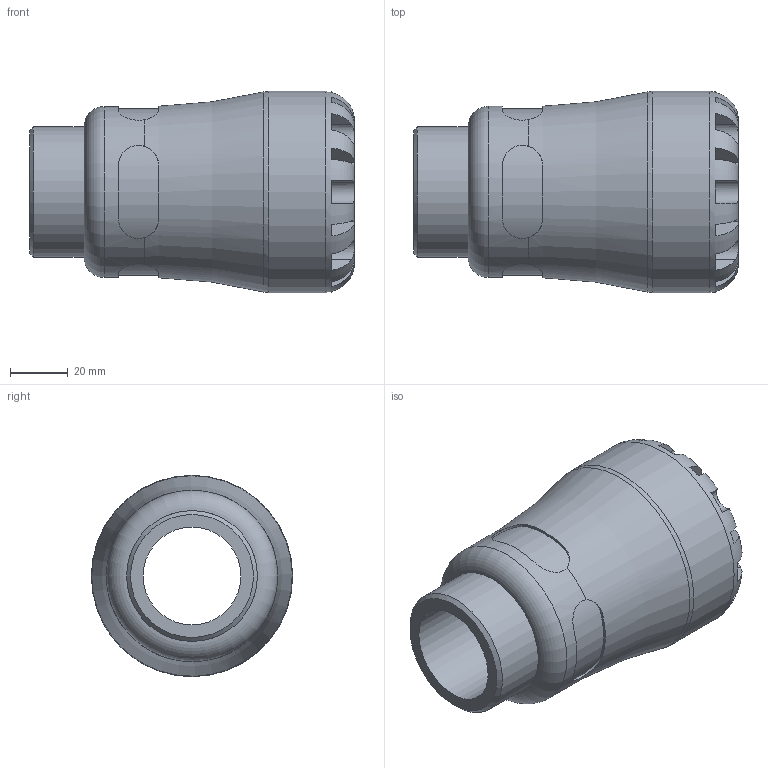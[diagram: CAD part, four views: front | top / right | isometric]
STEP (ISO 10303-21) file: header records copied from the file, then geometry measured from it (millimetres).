
FILE_DESCRIPTION(/* description */ ('PLASSON MALE INTEGRAL BRASS THREAD 40X1.1/2" SERIES 1'),/* implementation_level */ '2;1');
FILE_NAME(/* name */ 'C:\Dropbox\KIMPROJECTS-Inventor\99-16-3568-Processing\1072\107200040015_197200040015.ipt.stp',/* time_stamp */ '2017-01-22T10:49:03+02:00',/* author */ ('KIM'),/* organization */ (''),/* preprocessor_version */ 'ST-DEVELOPER v15.6',/* originating_system */ 'Autodesk Inventor 2015',/* authorisation */ '');
FILE_SCHEMA (('AUTOMOTIVE_DESIGN { 1 0 10303 214 3 1 1 }'));
Length unit declared in the file: millimetre
Products named in the file (1): 107200040015_197200040015
Bounding box: 113 x 70 x 70 mm (x, y, z)
Volume: 198906.3 mm3; surface area: 40533.6 mm2
Topology: 1 solids, 1 shells, 99 faces, 255 edges, 160 vertices
Faces by surface type: plane 60, cylinder 33, torus 4, cone 2
Full cylindrical faces by diameter (mm): 34.056 x1, 40 x1, 45.485 x1, 59.5 x1, 70 x1
Entity records: 3859 total; most frequent: CARTESIAN_POINT 1458, ORIENTED_EDGE 482, DIRECTION 458, EDGE_CURVE 241, AXIS2_PLACEMENT_3D 189, VERTEX_POINT 157, EDGE_LOOP 114, STYLED_ITEM 100
